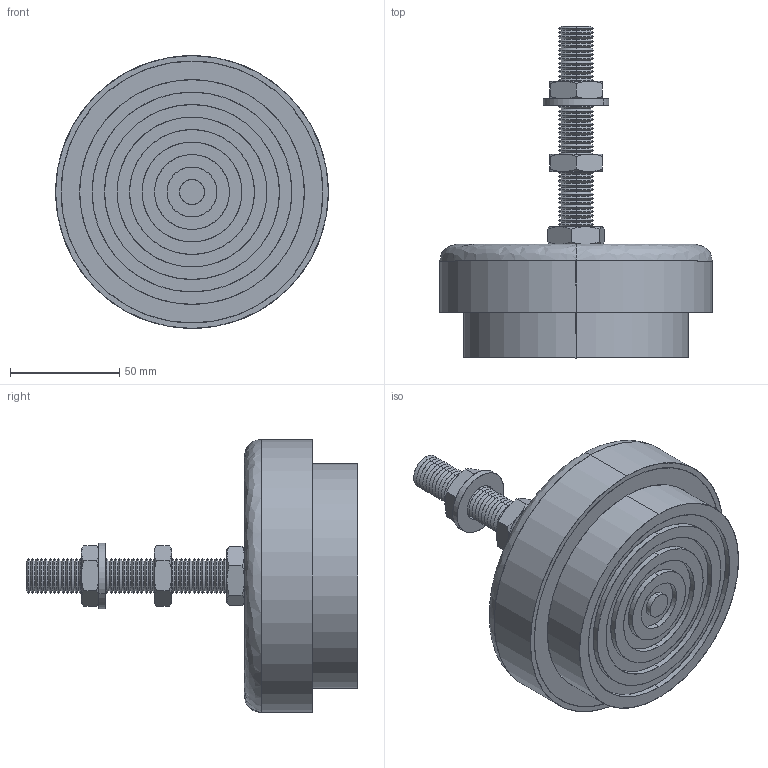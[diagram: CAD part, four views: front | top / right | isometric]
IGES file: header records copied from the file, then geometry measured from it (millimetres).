
Start section: SolidWorks IGES file using analytic representation for surfaces
Global section: file name: C:\Documents and Settings\IANO\Desktop\Temp File\Process pending\EXISTING\34940_v2\34940_v2_20170627_IGES\34940.W0125.igs; native system: SolidWorks 2009; preprocessor: SolidWorks 2009; author: IANO; date: 170626.132508; units: millimetre
Bounding box: 125 x 152 x 125 mm (x, y, z)
Surface area: 131978.1 mm2 (no closed solid volume)
Topology: 0 solids, 0 shells, 383 faces, 4720 edges, 4720 vertices
Faces by surface type: revolution 328, bspline 55
